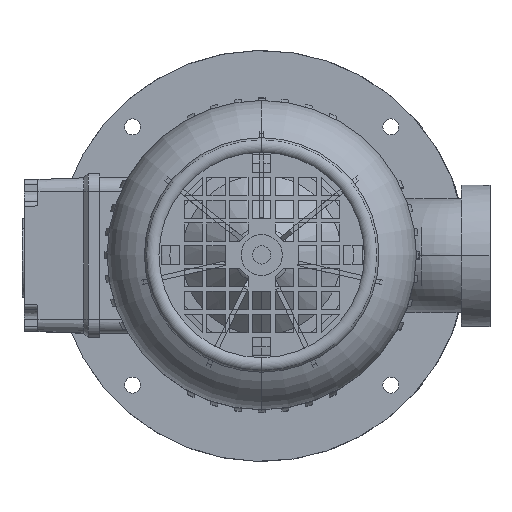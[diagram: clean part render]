
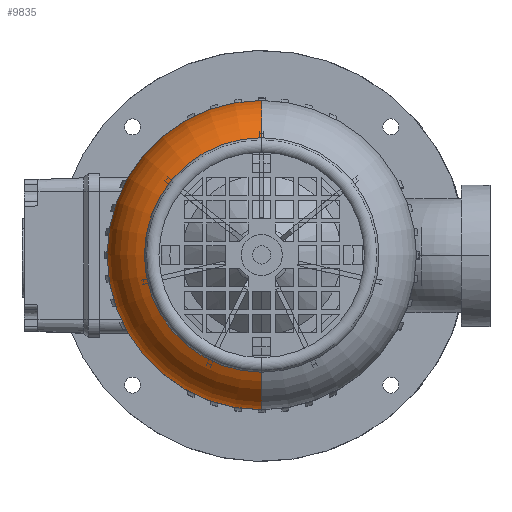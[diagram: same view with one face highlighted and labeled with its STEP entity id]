
A CAD part, top view. The second image highlights one B-rep face of the part: STEP entity #9835.
In plain terms, the highlighted toroidal (fillet/blend) face has major radius 39.75 mm and minor radius 28 mm.
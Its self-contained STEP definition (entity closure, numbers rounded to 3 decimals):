
#4899=VERTEX_POINT('',#14473);
#6081=EDGE_CURVE('',#11215,#4899,#15879,.T.);
#6705=VERTEX_POINT('',#16558);
#7343=VERTEX_POINT('',#17261);
#8217=EDGE_CURVE('',#6705,#7343,#18216,.T.);
#9835=ADVANCED_FACE('',(#19979),#19980,.T.);
#11215=VERTEX_POINT('',#21503);
#11527=EDGE_CURVE('',#4899,#7343,#21842,.T.);
#12503=EDGE_CURVE('',#6705,#11215,#22919,.T.);
#14473=CARTESIAN_POINT('',(0.0,67.75,169.0));
#15879=CIRCLE('',#27616,67.75);
#16558=CARTESIAN_POINT('',(0.,-51.372,194.474));
#17261=CARTESIAN_POINT('',(0.0,51.372,194.474));
#18216=CIRCLE('',#31986,51.372);
#19979=FACE_OUTER_BOUND('',#35444,.T.);
#19980=TOROIDAL_SURFACE('',#35445,39.75,28.);
#21503=CARTESIAN_POINT('',(0.,-67.75,169.0));
#21842=CIRCLE('',#39264,28.);
#22919=CIRCLE('',#41286,28.);
#27616=AXIS2_PLACEMENT_3D('',#47259,#47260,#47261);
#31986=AXIS2_PLACEMENT_3D('',#49692,#49693,#49694);
#35444=EDGE_LOOP('',(#51605,#51606,#51607,#51608));
#35445=AXIS2_PLACEMENT_3D('',#51609,#51610,#51611);
#39264=AXIS2_PLACEMENT_3D('',#53664,#53665,#53666);
#41286=AXIS2_PLACEMENT_3D('',#54804,#54805,#54806);
#47259=CARTESIAN_POINT('',(0.0,0.0,169.0));
#47260=DIRECTION('',(0.0,0.0,-1.0));
#47261=DIRECTION('',(0.0,1.0,0.0));
#49692=CARTESIAN_POINT('',(0.0,0.0,194.474));
#49693=DIRECTION('',(0.0,0.0,-1.0));
#49694=DIRECTION('',(0.0,1.0,0.0));
#51605=ORIENTED_EDGE('',*,*,#12503,.F.);
#51606=ORIENTED_EDGE('',*,*,#8217,.T.);
#51607=ORIENTED_EDGE('',*,*,#11527,.F.);
#51608=ORIENTED_EDGE('',*,*,#6081,.F.);
#51609=CARTESIAN_POINT('',(0.0,0.0,169.0));
#51610=DIRECTION('',(0.0,0.0,-1.0));
#51611=DIRECTION('',(0.0,-1.0,0.0));
#53664=CARTESIAN_POINT('',(0.,39.75,169.0));
#53665=DIRECTION('',(1.0,0.,0.0));
#53666=DIRECTION('',(0.,1.0,0.0));
#54804=CARTESIAN_POINT('',(0.,-39.75,169.0));
#54805=DIRECTION('',(1.0,0.,0.0));
#54806=DIRECTION('',(0.,-1.0,-0.0));
